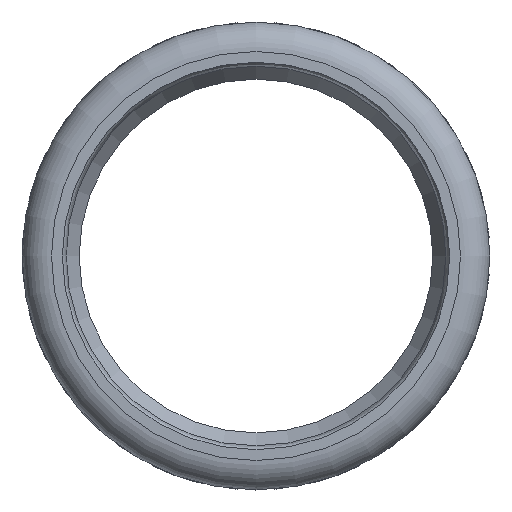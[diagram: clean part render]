
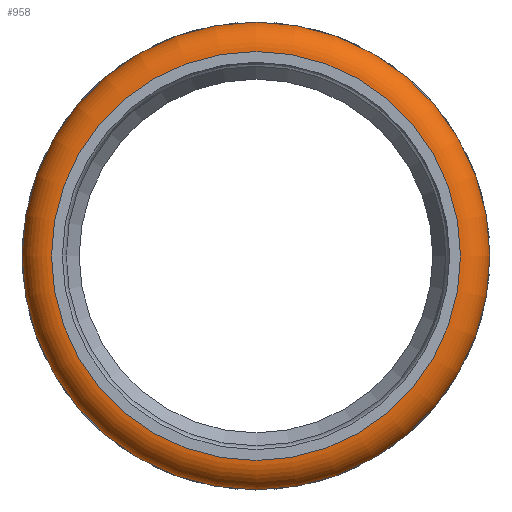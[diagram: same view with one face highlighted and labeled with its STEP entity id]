
A CAD part, left-side view. The second image highlights one B-rep face of the part: STEP entity #958.
In plain terms, the highlighted toroidal (fillet/blend) face has major radius 34.7 mm and minor radius 5 mm.
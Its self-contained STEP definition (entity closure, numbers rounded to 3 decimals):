
#924=CARTESIAN_POINT('',(-60.0,34.7,0.0));
#925=VERTEX_POINT('',#924);
#926=CARTESIAN_POINT('',(-60.0,0.,0.0));
#927=DIRECTION('',(1.0,0.0,0.0));
#928=DIRECTION('',(0.0,1.0,0.0));
#929=AXIS2_PLACEMENT_3D('',#926,#927,#928);
#930=CIRCLE('',#929,34.7);
#931=EDGE_CURVE('',#925,#925,#930,.T.);
#939=CARTESIAN_POINT('',(-55.,0.,0.0));
#940=DIRECTION('',(1.0,0.,0.0));
#941=DIRECTION('',(0.0,0.0,-1.0));
#942=AXIS2_PLACEMENT_3D('',#939,#940,#941);
#943=TOROIDAL_SURFACE('',#942,34.7,5.0);
#944=CARTESIAN_POINT('',(-51.464,38.236,0.0));
#945=VERTEX_POINT('',#944);
#946=CARTESIAN_POINT('',(-51.464,0.,0.0));
#947=DIRECTION('',(1.0,0.0,0.0));
#948=DIRECTION('',(0.0,1.0,0.0));
#949=AXIS2_PLACEMENT_3D('',#946,#947,#948);
#950=CIRCLE('',#949,38.236);
#951=EDGE_CURVE('',#945,#945,#950,.T.);
#952=ORIENTED_EDGE('',*,*,#951,.F.);
#953=EDGE_LOOP('',(#952));
#954=FACE_OUTER_BOUND('',#953,.T.);
#955=ORIENTED_EDGE('',*,*,#931,.T.);
#956=EDGE_LOOP('',(#955));
#957=FACE_BOUND('',#956,.T.);
#958=ADVANCED_FACE('',(#954,#957),#943,.T.);
